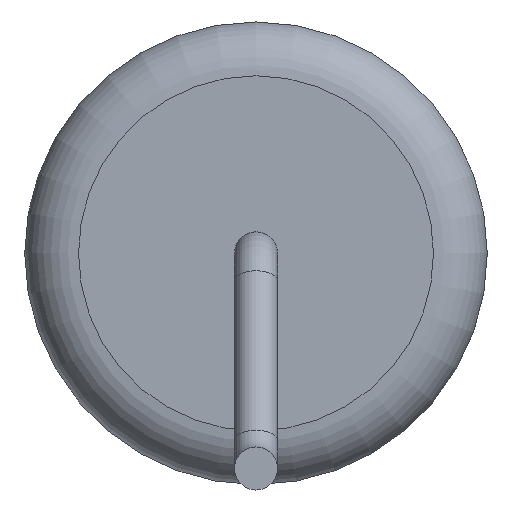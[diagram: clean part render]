
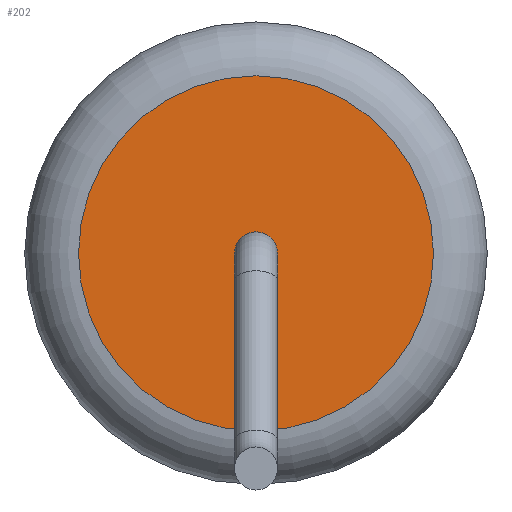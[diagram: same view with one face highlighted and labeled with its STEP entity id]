
A CAD part, left-side view. The second image highlights one B-rep face of the part: STEP entity #202.
In plain terms, the highlighted planar face has unit normal (-1, 0, 0).
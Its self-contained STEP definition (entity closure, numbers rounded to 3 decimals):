
#202=ADVANCED_FACE('',(#407,#409),#411,.T.);
#407=FACE_BOUND('',#408,.T.);
#408=EDGE_LOOP('',(#499));
#409=FACE_BOUND('',#410,.T.);
#410=EDGE_LOOP('',(#500));
#411=PLANE('',#412);
#412=AXIS2_PLACEMENT_3D('',#413,#414,#415);
#413=CARTESIAN_POINT('',(-10.,0.,0.));
#414=DIRECTION('',(-1.,0.,0.));
#415=DIRECTION('',(0.,0.,1.));
#499=ORIENTED_EDGE('',*,*,#527,.T.);
#500=ORIENTED_EDGE('',*,*,#528,.F.);
#527=EDGE_CURVE('',#564,#564,#565,.T.);
#528=EDGE_CURVE('',#566,#566,#567,.T.);
#564=VERTEX_POINT('',#653);
#565=CIRCLE('',#654,3.3);
#566=VERTEX_POINT('',#658);
#567=CIRCLE('',#659,0.4);
#653=CARTESIAN_POINT('',(-10.,0.,3.3));
#654=AXIS2_PLACEMENT_3D('',#655,#656,#657);
#655=CARTESIAN_POINT('',(-10.,0.,0.));
#656=DIRECTION('',(-1.,0.,0.));
#657=DIRECTION('',(0.,0.,1.));
#658=CARTESIAN_POINT('',(-10.,-0.4,0.));
#659=AXIS2_PLACEMENT_3D('',#660,#661,#662);
#660=CARTESIAN_POINT('',(-10.,0.,0.));
#661=DIRECTION('',(-1.,0.,0.));
#662=DIRECTION('',(-0.,-1.,0.));
